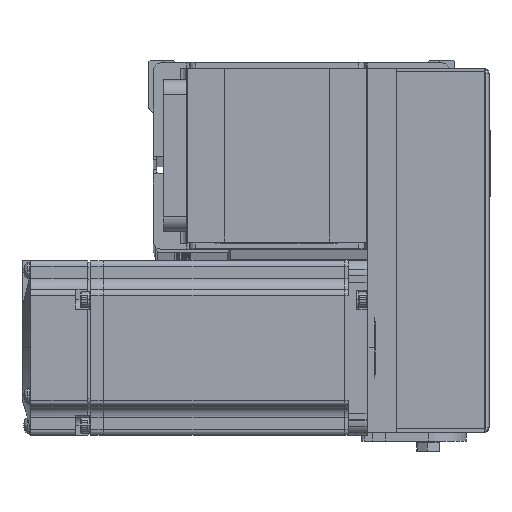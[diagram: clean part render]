
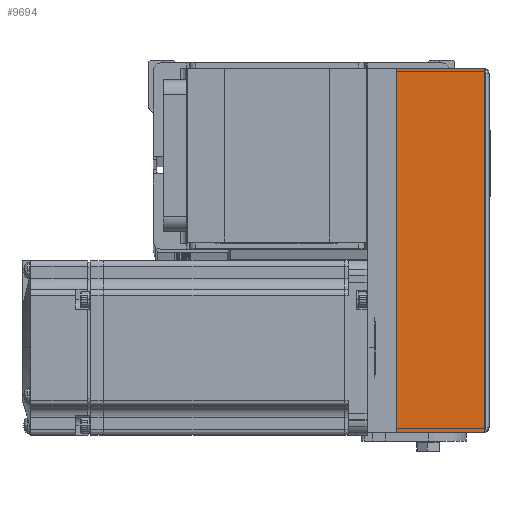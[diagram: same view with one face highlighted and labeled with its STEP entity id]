
A CAD part, top view. The second image highlights one B-rep face of the part: STEP entity #9694.
In plain terms, the highlighted planar face has unit normal (0, 0, 1).
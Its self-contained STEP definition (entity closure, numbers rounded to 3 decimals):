
#115 = EDGE_CURVE ( 'NONE', #43465, #33788, #44318, .T. ) ;
#1933 = CARTESIAN_POINT ( 'NONE',  ( 62.5, -30.3, 31. ) ) ;
#8398 = ORIENTED_EDGE ( 'NONE', *, *, #33431, .T. ) ;
#8805 = DIRECTION ( 'NONE',  ( 0., 1., 0. ) ) ;
#9425 = AXIS2_PLACEMENT_3D ( 'NONE', #27719, #41955, #34597 ) ;
#9694 = ADVANCED_FACE ( 'NONE', ( #20647 ), #17395, .F. ) ;
#14114 = LINE ( 'NONE', #28365, #21425 ) ;
#15285 = EDGE_LOOP ( 'NONE', ( #30983, #8398, #21396, #30498 ) ) ;
#15438 = CARTESIAN_POINT ( 'NONE',  ( -62.5, 0., 31. ) ) ;
#15495 = LINE ( 'NONE', #1933, #21797 ) ;
#17395 = PLANE ( 'NONE',  #9425 ) ;
#18187 = VECTOR ( 'NONE', #37125, 1000. ) ;
#19249 = VERTEX_POINT ( 'NONE', #36992 ) ;
#20647 = FACE_OUTER_BOUND ( 'NONE', #15285, .T. ) ;
#21396 = ORIENTED_EDGE ( 'NONE', *, *, #115, .T. ) ;
#21425 = VECTOR ( 'NONE', #28816, 1000. ) ;
#21797 = VECTOR ( 'NONE', #8805, 1000. ) ;
#23121 = CARTESIAN_POINT ( 'NONE',  ( -62.5, -30.3, 31. ) ) ;
#26390 = DIRECTION ( 'NONE',  ( -1., 0., 0. ) ) ;
#27719 = CARTESIAN_POINT ( 'NONE',  ( 0., -30.8, 31. ) ) ;
#28365 = CARTESIAN_POINT ( 'NONE',  ( -62.5, -30.3, 31. ) ) ;
#28816 = DIRECTION ( 'NONE',  ( 0., 1., 0. ) ) ;
#29038 = EDGE_CURVE ( 'NONE', #19249, #33788, #14114, .T. ) ;
#30498 = ORIENTED_EDGE ( 'NONE', *, *, #29038, .F. ) ;
#30983 = ORIENTED_EDGE ( 'NONE', *, *, #34100, .F. ) ;
#31099 = CARTESIAN_POINT ( 'NONE',  ( 62.5, -30.3, 31. ) ) ;
#32146 = VERTEX_POINT ( 'NONE', #31099 ) ;
#33410 = LINE ( 'NONE', #23121, #18187 ) ;
#33431 = EDGE_CURVE ( 'NONE', #32146, #43465, #15495, .T. ) ;
#33788 = VERTEX_POINT ( 'NONE', #15438 ) ;
#34100 = EDGE_CURVE ( 'NONE', #32146, #19249, #33410, .T. ) ;
#34597 = DIRECTION ( 'NONE',  ( 0., -1., 0. ) ) ;
#36992 = CARTESIAN_POINT ( 'NONE',  ( -62.5, -30.3, 31. ) ) ;
#37125 = DIRECTION ( 'NONE',  ( -1., 0., 0. ) ) ;
#39930 = CARTESIAN_POINT ( 'NONE',  ( 0., 0., 31. ) ) ;
#41955 = DIRECTION ( 'NONE',  ( 0., 0., -1. ) ) ;
#43422 = CARTESIAN_POINT ( 'NONE',  ( 62.5, 0., 31. ) ) ;
#43465 = VERTEX_POINT ( 'NONE', #43422 ) ;
#43577 = VECTOR ( 'NONE', #26390, 1000. ) ;
#44318 = LINE ( 'NONE', #39930, #43577 ) ;
